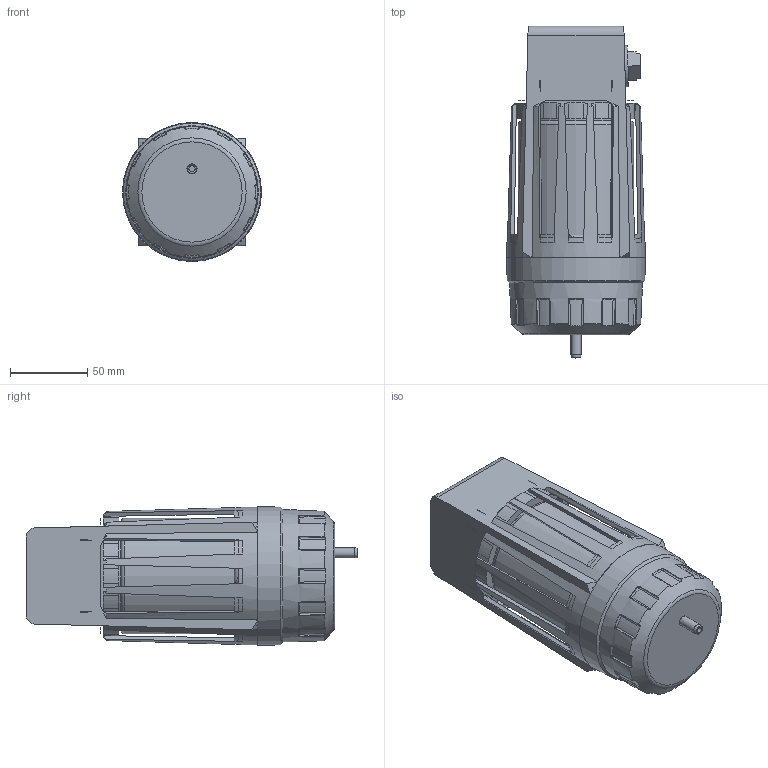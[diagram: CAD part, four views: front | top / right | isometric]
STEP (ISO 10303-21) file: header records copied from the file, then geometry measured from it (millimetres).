
FILE_DESCRIPTION((''),'2;1');
FILE_NAME('K:\ZEICHNG\Kunden Modelle\STEP Dateien\Sondergeräte\FSD.33.stp','2014-05-26T15:23:59',('DDruske'),(''),'Autodesk Inventor 2013','Autodesk Inventor 2013','');
FILE_SCHEMA(('AUTOMOTIVE_DESIGN { 1 0 10303 214 1 1 1 1 }'));
Length unit declared in the file: millimetre
Products named in the file (1): FSD
Bounding box: 90 x 215.1 x 90 mm (x, y, z)
Volume: 727510 mm3; surface area: 152522.5 mm2
Topology: 3 solids, 3 shells, 456 faces, 1292 edges, 821 vertices
Faces by surface type: plane 236, cone 90, cylinder 49, torus 32, bspline 25, sphere 24
Full cylindrical faces by diameter (mm): 4 x1, 6.5 x1, 18.631 x1, 24.118 x1, 27 x1, 34 x1, 35 x2, 70 x1, 75 x1
Entity records: 15973 total; most frequent: CARTESIAN_POINT 4281, ORIENTED_EDGE 2486, DIRECTION 2247, EDGE_CURVE 1243, AXIS2_PLACEMENT_3D 847, VERTEX_POINT 807, VECTOR 553, LINE 553
